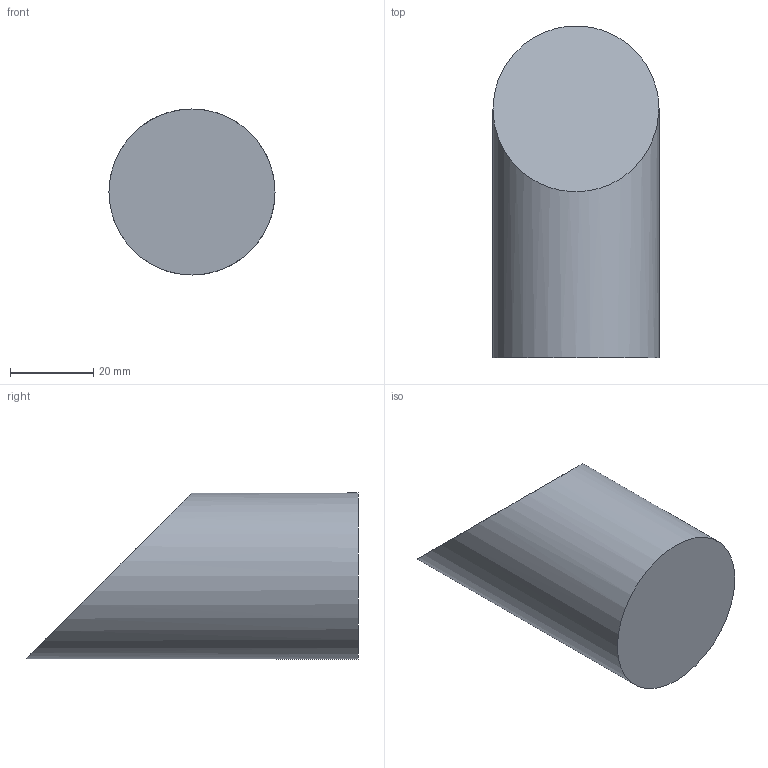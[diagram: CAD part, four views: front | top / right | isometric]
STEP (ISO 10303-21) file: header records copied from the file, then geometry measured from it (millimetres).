
FILE_DESCRIPTION(/* description */ ('','CAx-IF Rec.Pracs.---Representation and Presentation of Product Manufacturing Information (PMI)---4.0---2014-10-13'),/* implementation_level */ '2;1');
FILE_NAME(/* name */ '2.stp',/* time_stamp */ '2026-06-27T16:25:04+01:00',/* author */ ('hunte'),/* organization */ (''),/* preprocessor_version */ 'ST-DEVELOPER v20',/* originating_system */ 'Autodesk Inventor 2024',/* authorisation */ '');
FILE_SCHEMA (('AP242_MANAGED_MODEL_BASED_3D_ENGINEERING_MIM_LF { 1 0 10303 442 1 1 4 }'));
Length unit declared in the file: millimetre
Products named in the file (1): 2
Bounding box: 40 x 80 x 40 mm (x, y, z)
Volume: 75398.5 mm3; surface area: 10573.6 mm2
Topology: 1 solids, 1 shells, 3 faces, 3 edges, 2 vertices
Faces by surface type: plane 2, cylinder 1
Full cylindrical faces by diameter (mm): 40 x1
Entity records: 190 total; most frequent: DIRECTION 39, CARTESIAN_POINT 26, AXIS2_PLACEMENT_3D 19, ORIENTED_EDGE 6, MAPPED_ITEM 5, REPRESENTATION_MAP 5, DRAUGHTING_MODEL 5, MECHANICAL_DESIGN_AND_DRAUGHTING_RELATIONSHIP 4
